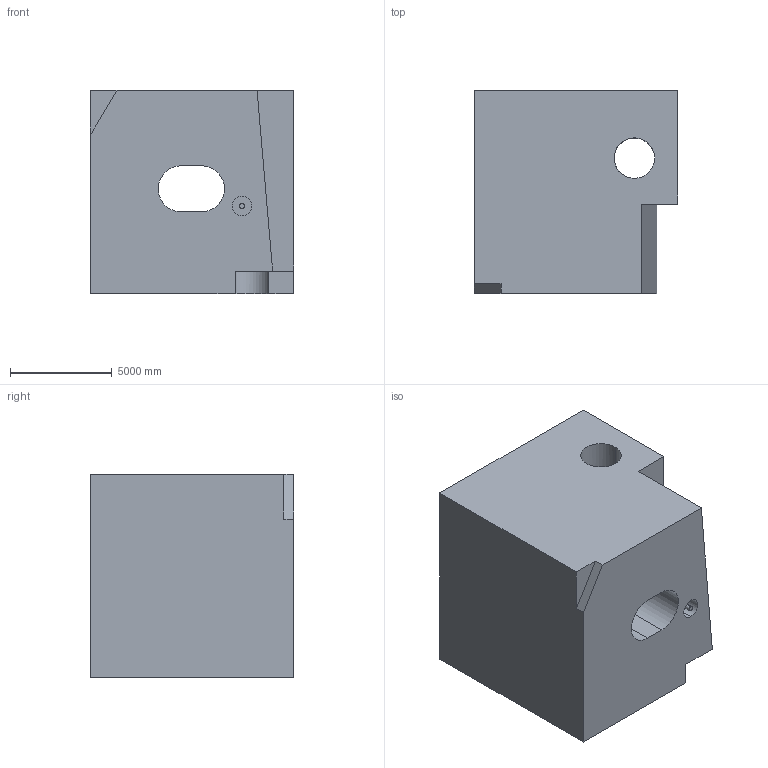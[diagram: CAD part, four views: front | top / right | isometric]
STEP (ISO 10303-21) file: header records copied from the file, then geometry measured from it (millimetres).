
FILE_DESCRIPTION (( 'STEP AP203' ), '1' );
FILE_NAME ('59.STEP', '2022-09-01T11:50:25', ( 'user' ), ( '' ), 'SwSTEP 2.0', 'SolidWorks 2021', '' );
FILE_SCHEMA (( 'CONFIG_CONTROL_DESIGN' ));
Length unit declared in the file: centimetre
Products named in the file (1): 59
Bounding box: 10000 x 10000 x 10000 mm (x, y, z)
Volume: 827940957142.1 mm3; surface area: 724971724.8 mm2
Topology: 1 solids, 1 shells, 25 faces, 66 edges, 44 vertices
Faces by surface type: plane 17, cylinder 8
Entity records: 863 total; most frequent: DIRECTION 136, CARTESIAN_POINT 136, ORIENTED_EDGE 132, EDGE_CURVE 66, LINE 48, VECTOR 48, AXIS2_PLACEMENT_3D 44, VERTEX_POINT 44
